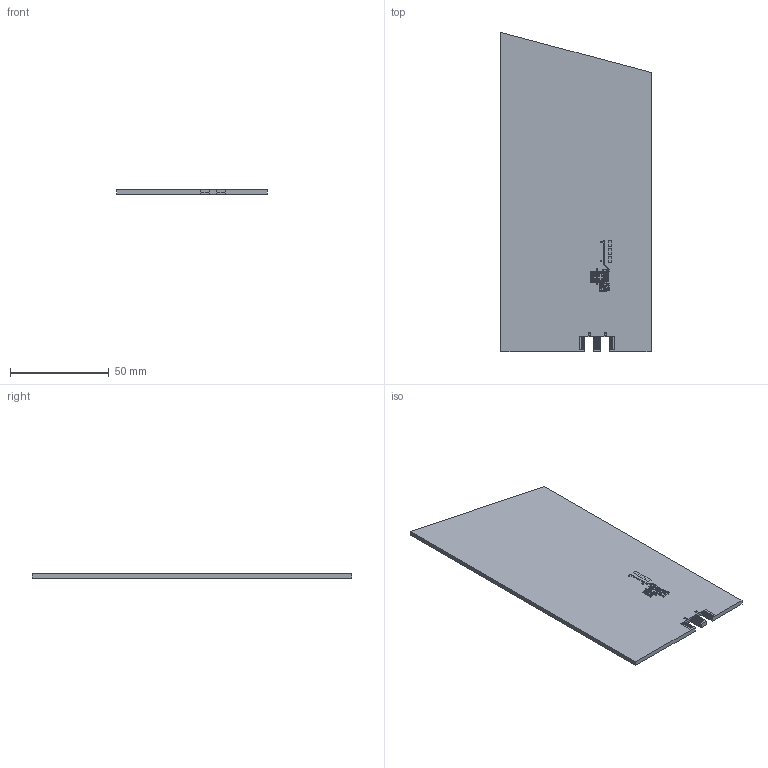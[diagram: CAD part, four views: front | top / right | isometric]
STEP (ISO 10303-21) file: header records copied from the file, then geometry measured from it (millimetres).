
FILE_DESCRIPTION(/* description */ ('PCB Design'),/* implementation_level */ '2;1');
FILE_NAME(/* name */ '100221187rC_wideband+iridium with led',/* time_stamp */ '2026-02-09T14:48:04-08:00',/* author */ ('hobson'),/* organization */ (''),/* preprocessor_version */ 'ST-DEVELOPER v16',/* originating_system */ 'allegro_23.1P001',/* authorisation */ '');
FILE_SCHEMA (('AUTOMOTIVE_DESIGN { 1 0 10303 214 3 1 1 }'));
Length unit declared in the file: inch
Products named in the file (43): 100221187RC_WIDEBAND+IRIDIUM WITH LED; BOARD_OUTLINE; EXTERNAL COPPER; TOP; PADS_TOP; CIRCLE_24001; RECT_3110X51201; RECT_7440X114201; SHAPE_MARKI_BTSM-PIN21; SHAPE_MARKI_BTSM-PIN11; RECT_3940X37401; RECT_7090X45301; TRACES_TOP; SHAPES_TOP; SHAPE_1_N06909; SHAPE_2_GND_SIGNAL; SHAPE_3_GND_SIGNAL; SHAPE_4_GND_SIGNAL; SHAPE_5_GND_SIGNAL; SHAPE_6_GND_SIGNAL; BOTTOM; PADS_BOTTOM; CIRCLE_24004; RECT_3110X51204; RECT_7440X114204; TRACES_BOTTOM; SHAPES_BOTTOM; SHAPE_1_GND_SIGNAL; INTERNAL COPPER; IN1; PADS_IN1; CIRCLE_24002; TRACES_IN1; SHAPES_IN1; SHAPE_1_UWB_FEEDLINE; IN2; PADS_IN2; CIRCLE_24003; TRACES_IN2; SHAPES_IN2
Assembly tree (568 placements, depth 5):
  100221187RC_WIDEBAND+IRIDIUM WITH LED
    BOARD_OUTLINE
    EXTERNAL COPPER
      TOP
        PADS_TOP
          CIRCLE_24001  x127
          RECT_3110X51201  x6
          RECT_7440X114201  x3
          SHAPE_MARKI_BTSM-PIN21
          SHAPE_MARKI_BTSM-PIN11  x3
          RECT_3940X37401  x4
          RECT_7090X45301  x2
        TRACES_TOP
        SHAPES_TOP
          SHAPE_1_N06909
          SHAPE_2_GND_SIGNAL
          SHAPE_3_GND_SIGNAL
          SHAPE_4_GND_SIGNAL
          SHAPE_5_GND_SIGNAL
          SHAPE_6_GND_SIGNAL
      BOTTOM
        PADS_BOTTOM
          CIRCLE_24004  x127
          RECT_3110X51204  x6
          RECT_7440X114204  x3
        TRACES_BOTTOM
        SHAPES_BOTTOM
          SHAPE_1_GND_SIGNAL
          SHAPE_2_GND_SIGNAL
          SHAPE_3_GND_SIGNAL
    INTERNAL COPPER
      IN1
        PADS_IN1
          CIRCLE_24002  x128
        TRACES_IN1
        SHAPES_IN1
          SHAPE_1_UWB_FEEDLINE
      IN2
        PADS_IN2
          CIRCLE_24003  x128
        TRACES_IN2
        SHAPES_IN2
          SHAPE_1_GND_SIGNAL
Bounding box: 76.2 x 162.05 x 2.31 mm (x, y, z)
Surface area: 30476.1 mm2 (no closed solid volume)
Topology: 0 solids, 571 shells, 838 faces, 1807 edges, 1413 vertices
Faces by surface type: plane 584, cylinder 254
Entity records: 18034 total; most frequent: CARTESIAN_POINT 2535, AXIS2_PLACEMENT_3D 2062, ORIENTED_EDGE 1887, DIRECTION 1694, EDGE_CURVE 1217, VERTEX_POINT 1128, CIRCLE 614, PRODUCT_DEFINITION_SHAPE 611
